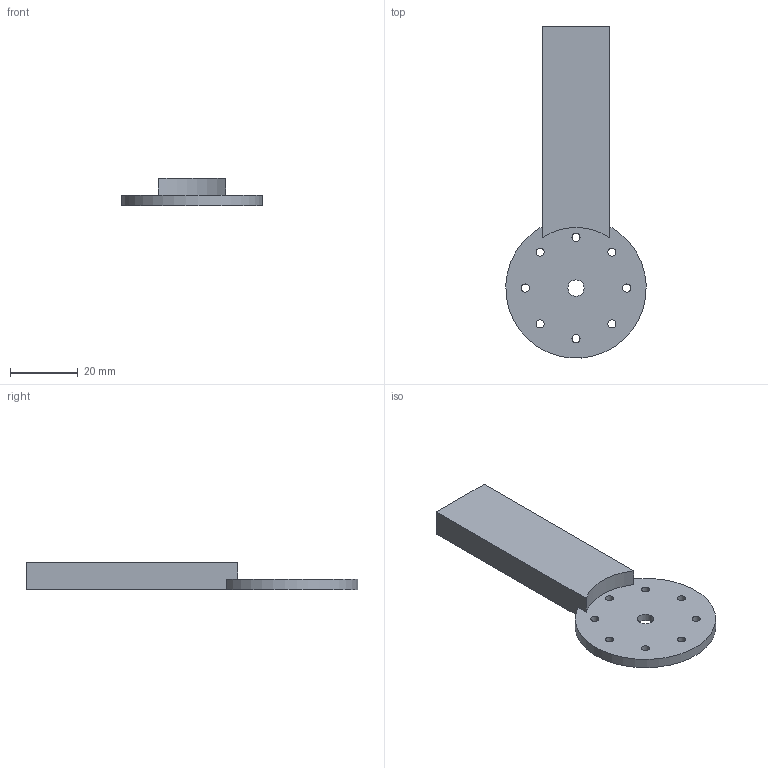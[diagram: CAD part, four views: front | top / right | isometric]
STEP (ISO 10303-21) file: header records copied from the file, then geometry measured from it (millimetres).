
FILE_DESCRIPTION(('Open CASCADE Model'),'2;1');
FILE_NAME('Open CASCADE Shape Model','2026-11-06T19:21:00',('Author'),( 'Open CASCADE'),'Open CASCADE STEP processor 8.0','Open CASCADE 8.0' ,'Unknown');
FILE_SCHEMA(('AUTOMOTIVE_DESIGN { 1 0 10303 214 1 1 1 1 }'));
Length unit declared in the file: millimetre
Products named in the file (1): Open CASCADE STEP translator 8.0 4
Bounding box: 41.46 x 98.08 x 8 mm (x, y, z)
Volume: 12717 mm3; surface area: 6725.1 mm2
Topology: 1 solids, 1 shells, 19 faces, 48 edges, 32 vertices
Faces by surface type: cylinder 12, plane 7
Full cylindrical faces by diameter (mm): 2.4 x8, 4.8 x1, 36.1 x1
Entity records: 1258 total; most frequent: CARTESIAN_POINT 230, DIRECTION 194, ORIENTED_EDGE 96, PCURVE 96, DEFINITIONAL_REPRESENTATION 96, LINE 86, VECTOR 86, EDGE_CURVE 48
